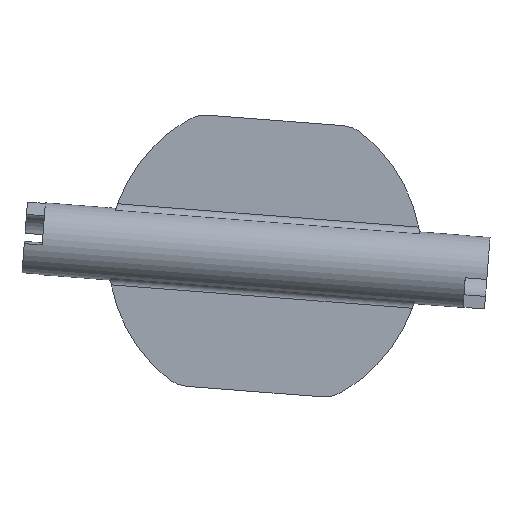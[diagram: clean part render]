
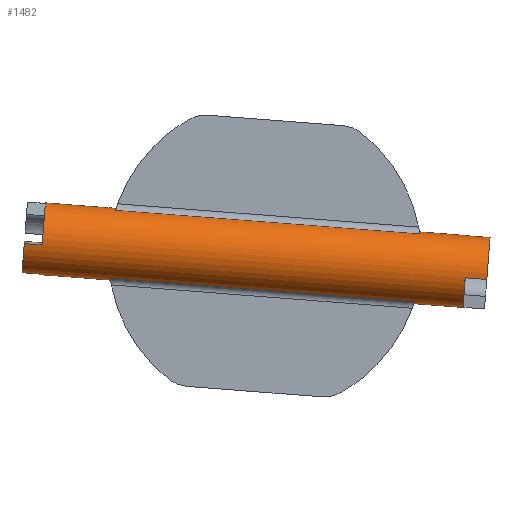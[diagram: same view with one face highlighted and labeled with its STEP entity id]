
A CAD part, front view. The second image highlights one B-rep face of the part: STEP entity #1482.
In plain terms, the highlighted cylindrical face has radius 5 mm (diameter 10 mm), a partial arc.
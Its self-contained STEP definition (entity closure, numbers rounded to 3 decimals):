
#66=CARTESIAN_POINT('',(448.735,-1.667,148.192));
#67=CARTESIAN_POINT('',(448.716,-1.487,148.13));
#68=CARTESIAN_POINT('',(448.683,-1.124,148.027));
#69=CARTESIAN_POINT('',(448.654,-0.564,147.933));
#70=CARTESIAN_POINT('',(448.647,-0.189,147.912));
#71=CARTESIAN_POINT('',(448.647,0.,147.912));
#101=CARTESIAN_POINT('',(449.42,0.,157.883));
#102=CARTESIAN_POINT('',(449.42,-0.189,157.883));
#103=CARTESIAN_POINT('',(449.424,-0.564,157.861));
#104=CARTESIAN_POINT('',(449.438,-1.124,157.764));
#105=CARTESIAN_POINT('',(449.454,-1.487,157.657));
#106=CARTESIAN_POINT('',(449.463,-1.667,157.592));
#141=CARTESIAN_POINT('',(406.48,0.,
151.182));
#142=CARTESIAN_POINT('',(406.48,-0.189,151.182));
#143=CARTESIAN_POINT('',(406.476,-0.564,151.204));
#144=CARTESIAN_POINT('',(406.462,-1.124,151.301));
#145=CARTESIAN_POINT('',(406.446,-1.487,151.408));
#146=CARTESIAN_POINT('',(406.437,-1.667,151.472));
#190=CARTESIAN_POINT('',(407.165,-1.667,160.872));
#191=CARTESIAN_POINT('',(407.184,-1.487,160.934));
#192=CARTESIAN_POINT('',(407.217,-1.124,161.038));
#193=CARTESIAN_POINT('',(407.246,-0.564,161.131));
#194=CARTESIAN_POINT('',(407.253,-0.189,161.152));
#195=CARTESIAN_POINT('',(407.253,0.,161.152));
#197=DIRECTION('',(-0.997,0.,0.077));
#198=VECTOR('',#197,42.425);
#199=CARTESIAN_POINT('',(449.463,-1.667,157.592));
#200=LINE('',#199,#198);
#201=DIRECTION('',(0.997,0.,-0.077));
#202=VECTOR('',#201,6.846);
#203=CARTESIAN_POINT('',(449.42,0.,157.883));
#204=LINE('',#203,#202);
#205=CARTESIAN_POINT('',(455.859,0.,152.368));
#206=DIRECTION('',(0.997,0.,-0.077));
#207=DIRECTION('',(0.077,0.,0.997));
#208=AXIS2_PLACEMENT_3D('',#205,#206,#207);
#210=DIRECTION('',(-0.997,0.,0.077));
#211=VECTOR('',#210,3.);
#212=CARTESIAN_POINT('',(459.235,-0.436,157.102));
#213=LINE('',#212,#211);
#214=CARTESIAN_POINT('',(455.859,0.,152.368));
#215=DIRECTION('',(0.997,0.,-0.077));
#216=DIRECTION('',(-0.013,-0.985,-0.173));
#217=AXIS2_PLACEMENT_3D('',#214,#215,#216);
#219=DIRECTION('',(0.997,0.,-0.077));
#220=VECTOR('',#219,42.425);
#221=CARTESIAN_POINT('',(406.437,-1.667,151.472));
#222=LINE('',#221,#220);
#223=DIRECTION('',(-0.997,0.,0.077));
#224=VECTOR('',#223,2.5);
#225=CARTESIAN_POINT('',(396.669,-0.868,152.019));
#226=LINE('',#225,#224);
#227=DIRECTION('',(0.997,0.,-0.077));
#228=VECTOR('',#227,9.846);
#229=CARTESIAN_POINT('',(397.437,0.,161.913));
#230=LINE('',#229,#228);
#235=DIRECTION('',(0.997,0.,-0.077));
#236=VECTOR('',#235,6.846);
#237=CARTESIAN_POINT('',(448.647,0.,147.912));
#238=LINE('',#237,#236);
#261=DIRECTION('',(0.997,0.,-0.077));
#262=VECTOR('',#261,9.846);
#263=CARTESIAN_POINT('',(396.663,0.,151.943));
#264=LINE('',#263,#262);
#855=CARTESIAN_POINT('',(397.05,0.,156.928));
#856=DIRECTION('',(0.997,0.,-0.077));
#857=DIRECTION('',(0.077,0.,0.997));
#858=AXIS2_PLACEMENT_3D('',#855,#856,#857);
#883=CARTESIAN_POINT('',(397.05,0.,156.928));
#884=DIRECTION('',(0.997,0.,-0.077));
#885=DIRECTION('',(-0.076,-0.174,-0.982));
#886=AXIS2_PLACEMENT_3D('',#883,#884,#885);
#931=DIRECTION('',(-0.997,0.,0.077));
#932=VECTOR('',#931,2.5);
#933=CARTESIAN_POINT('',(396.983,-4.924,156.063));
#934=LINE('',#933,#932);
#944=CARTESIAN_POINT('',(394.557,0.,157.122));
#945=DIRECTION('',(-0.997,0.,0.077));
#946=DIRECTION('',(-0.076,-0.174,-0.982));
#947=AXIS2_PLACEMENT_3D('',#944,#945,#946);
#961=DIRECTION('',(-0.997,0.,0.077));
#962=VECTOR('',#961,3.);
#963=CARTESIAN_POINT('',(458.783,-4.924,151.271));
#964=LINE('',#963,#962);
#974=CARTESIAN_POINT('',(458.85,0.,152.136));
#975=DIRECTION('',(0.997,0.,-0.077));
#976=DIRECTION('',(0.077,-0.087,0.993));
#977=AXIS2_PLACEMENT_3D('',#974,#975,#976);
#1025=CARTESIAN_POINT('',(396.663,0.,151.943));
#1026=CARTESIAN_POINT('',(406.48,0.,
151.182));
#1027=VERTEX_POINT('',#1025);
#1028=VERTEX_POINT('',#1026);
#1029=CARTESIAN_POINT('',(397.437,0.,161.913));
#1030=CARTESIAN_POINT('',(407.253,0.,
161.152));
#1031=VERTEX_POINT('',#1029);
#1032=VERTEX_POINT('',#1030);
#1041=CARTESIAN_POINT('',(459.235,-0.436,
157.102));
#1042=CARTESIAN_POINT('',(458.783,-4.924,151.271));
#1043=VERTEX_POINT('',#1041);
#1044=VERTEX_POINT('',#1042);
#1045=CARTESIAN_POINT('',(456.244,-0.436,
157.334));
#1046=VERTEX_POINT('',#1045);
#1047=CARTESIAN_POINT('',(455.792,-4.924,151.503));
#1048=VERTEX_POINT('',#1047);
#1057=CARTESIAN_POINT('',(394.177,-0.868,
152.212));
#1058=CARTESIAN_POINT('',(394.49,-4.924,156.256));
#1059=VERTEX_POINT('',#1057);
#1060=VERTEX_POINT('',#1058);
#1061=CARTESIAN_POINT('',(396.669,-0.868,
152.019));
#1062=VERTEX_POINT('',#1061);
#1063=CARTESIAN_POINT('',(396.983,-4.924,156.063));
#1064=VERTEX_POINT('',#1063);
#1097=CARTESIAN_POINT('',(448.647,0.,
147.912));
#1098=CARTESIAN_POINT('',(455.472,0.,147.383));
#1099=VERTEX_POINT('',#1097);
#1100=VERTEX_POINT('',#1098);
#1101=CARTESIAN_POINT('',(449.42,0.,
157.883));
#1102=CARTESIAN_POINT('',(456.246,0.,157.353));
#1103=VERTEX_POINT('',#1101);
#1104=VERTEX_POINT('',#1102);
#1125=CARTESIAN_POINT('',(449.463,-1.667,157.592));
#1126=CARTESIAN_POINT('',(407.165,-1.667,160.872));
#1127=VERTEX_POINT('',#1125);
#1128=VERTEX_POINT('',#1126);
#1133=CARTESIAN_POINT('',(406.437,-1.667,151.472));
#1134=CARTESIAN_POINT('',(448.735,-1.667,148.192));
#1135=VERTEX_POINT('',#1133);
#1136=VERTEX_POINT('',#1134);
#1441=CARTESIAN_POINT('',(397.05,0.,156.928));
#1442=DIRECTION('',(0.997,0.,-0.077));
#1443=DIRECTION('',(-0.077,0.,-0.997));
#1444=AXIS2_PLACEMENT_3D('',#1441,#1442,#1443);
#1445=CYLINDRICAL_SURFACE('',#1444,5.);
#1446=ORIENTED_EDGE('',*,*,#1339,.F.);
#1447=ORIENTED_EDGE('',*,*,#1378,.F.);
#1449=ORIENTED_EDGE('',*,*,#1448,.T.);
#1451=ORIENTED_EDGE('',*,*,#1450,.T.);
#1453=ORIENTED_EDGE('',*,*,#1452,.F.);
#1455=ORIENTED_EDGE('',*,*,#1454,.T.);
#1457=ORIENTED_EDGE('',*,*,#1456,.T.);
#1459=ORIENTED_EDGE('',*,*,#1458,.T.);
#1461=ORIENTED_EDGE('',*,*,#1460,.F.);
#1462=ORIENTED_EDGE('',*,*,#1354,.F.);
#1463=ORIENTED_EDGE('',*,*,#1395,.F.);
#1464=ORIENTED_EDGE('',*,*,#1406,.F.);
#1466=ORIENTED_EDGE('',*,*,#1465,.F.);
#1468=ORIENTED_EDGE('',*,*,#1467,.F.);
#1470=ORIENTED_EDGE('',*,*,#1469,.T.);
#1472=ORIENTED_EDGE('',*,*,#1471,.T.);
#1474=ORIENTED_EDGE('',*,*,#1473,.F.);
#1476=ORIENTED_EDGE('',*,*,#1475,.F.);
#1478=ORIENTED_EDGE('',*,*,#1477,.T.);
#1479=ORIENTED_EDGE('',*,*,#1436,.F.);
#1480=EDGE_LOOP('',(#1446,#1447,#1449,#1451,#1453,#1455,#1457,#1459,#1461,#1462,
#1463,#1464,#1466,#1468,#1470,#1472,#1474,#1476,#1478,#1479));
#1481=FACE_OUTER_BOUND('',#1480,.F.);
#1482=ADVANCED_FACE('',(#1481),#1445,.T.);
#72=B_SPLINE_CURVE_WITH_KNOTS('',3,(#66,#67,#68,#69,#70,#71),.UNSPECIFIED.,.F.,
.F.,(4,1,1,4),(0.,0.333,0.667,1.),.UNSPECIFIED.);
#107=B_SPLINE_CURVE_WITH_KNOTS('',3,(#101,#102,#103,#104,#105,#106),
.UNSPECIFIED.,.F.,.F.,(4,1,1,4),(0.,0.333,0.667,1.),
.UNSPECIFIED.);
#147=B_SPLINE_CURVE_WITH_KNOTS('',3,(#141,#142,#143,#144,#145,#146),
.UNSPECIFIED.,.F.,.F.,(4,1,1,4),(0.,0.333,0.667,1.),
.UNSPECIFIED.);
#196=B_SPLINE_CURVE_WITH_KNOTS('',3,(#190,#191,#192,#193,#194,#195),
.UNSPECIFIED.,.F.,.F.,(4,1,1,4),(0.,0.333,0.667,1.),
.UNSPECIFIED.);
#209=CIRCLE('',#208,5.);
#218=CIRCLE('',#217,5.);
#859=CIRCLE('',#858,5.);
#887=CIRCLE('',#886,5.);
#948=CIRCLE('',#947,5.);
#978=CIRCLE('',#977,5.);
#1339=EDGE_CURVE('',#1127,#1128,#200,.T.);
#1354=EDGE_CURVE('',#1136,#1099,#72,.T.);
#1378=EDGE_CURVE('',#1103,#1127,#107,.T.);
#1395=EDGE_CURVE('',#1135,#1136,#222,.T.);
#1406=EDGE_CURVE('',#1028,#1135,#147,.T.);
#1436=EDGE_CURVE('',#1128,#1032,#196,.T.);
#1448=EDGE_CURVE('',#1103,#1104,#204,.T.);
#1450=EDGE_CURVE('',#1104,#1046,#209,.T.);
#1452=EDGE_CURVE('',#1043,#1046,#213,.T.);
#1454=EDGE_CURVE('',#1043,#1044,#978,.T.);
#1456=EDGE_CURVE('',#1044,#1048,#964,.T.);
#1458=EDGE_CURVE('',#1048,#1100,#218,.T.);
#1460=EDGE_CURVE('',#1099,#1100,#238,.T.);
#1465=EDGE_CURVE('',#1027,#1028,#264,.T.);
#1467=EDGE_CURVE('',#1062,#1027,#887,.T.);
#1469=EDGE_CURVE('',#1062,#1059,#226,.T.);
#1471=EDGE_CURVE('',#1059,#1060,#948,.T.);
#1473=EDGE_CURVE('',#1064,#1060,#934,.T.);
#1475=EDGE_CURVE('',#1031,#1064,#859,.T.);
#1477=EDGE_CURVE('',#1031,#1032,#230,.T.);
